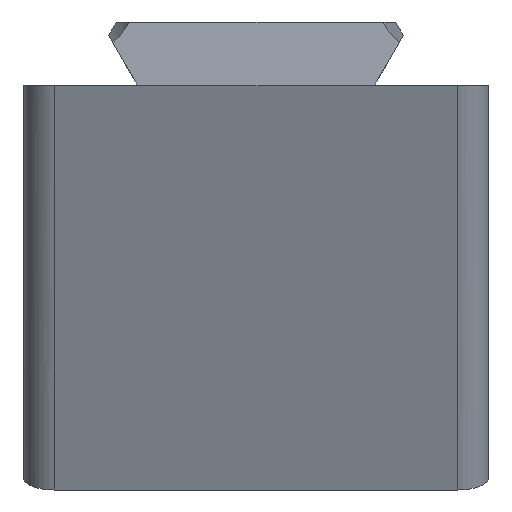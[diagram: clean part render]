
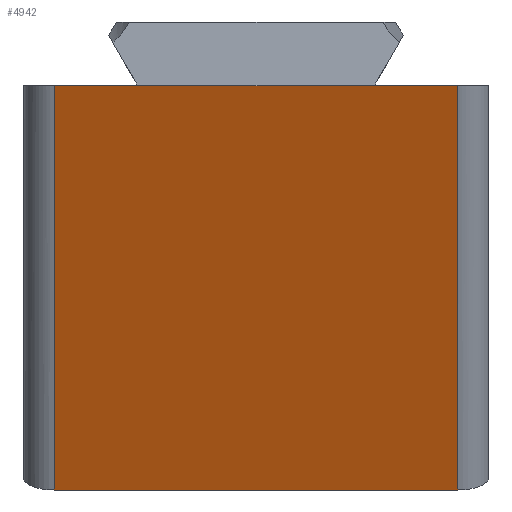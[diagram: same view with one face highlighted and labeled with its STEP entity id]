
A CAD part, left-side view. The second image highlights one B-rep face of the part: STEP entity #4942.
In plain terms, the highlighted planar face has unit normal (-0.92, 0, -0.391).
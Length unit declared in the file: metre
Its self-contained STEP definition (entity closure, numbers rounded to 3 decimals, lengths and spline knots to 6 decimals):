
#764=ORIENTED_EDGE('',*,*,#2034,.T.);
#765=ORIENTED_EDGE('',*,*,#2248,.T.);
#766=ORIENTED_EDGE('',*,*,#1966,.F.);
#767=ORIENTED_EDGE('',*,*,#2249,.T.);
#768=ORIENTED_EDGE('',*,*,#2048,.T.);
#769=ORIENTED_EDGE('',*,*,#2244,.T.);
#1966=EDGE_CURVE('',#2724,#2725,#3229,.T.);
#2034=EDGE_CURVE('',#2783,#2790,#3272,.T.);
#2048=EDGE_CURVE('',#2801,#2775,#3279,.T.);
#2244=EDGE_CURVE('',#2775,#2783,#3359,.T.);
#2248=EDGE_CURVE('',#2790,#2725,#3360,.T.);
#2249=EDGE_CURVE('',#2724,#2801,#3361,.F.);
#2724=VERTEX_POINT('',#6676);
#2725=VERTEX_POINT('',#6678);
#2775=VERTEX_POINT('',#6785);
#2783=VERTEX_POINT('',#6803);
#2790=VERTEX_POINT('',#6820);
#2801=VERTEX_POINT('',#6846);
#3229=LINE('',#6677,#3697);
#3272=LINE('',#6821,#3740);
#3279=LINE('',#6845,#3747);
#3359=LINE('',#7383,#3827);
#3360=LINE('',#7393,#3828);
#3361=LINE('',#7394,#3829);
#3697=VECTOR('',#5553,1.);
#3740=VECTOR('',#5666,1.);
#3747=VECTOR('',#5687,1.);
#3827=VECTOR('',#5861,1.);
#3828=VECTOR('',#5876,1.);
#3829=VECTOR('',#5877,1.);
#4204=EDGE_LOOP('',(#764,#765,#766,#767,#768,#769));
#4516=FACE_BOUND('',#4204,.T.);
#4801=PLANE('',#5310);
#4942=ADVANCED_FACE('',(#4516),#4801,.F.);
#5310=AXIS2_PLACEMENT_3D('',#7392,#5874,#5875);
#5553=DIRECTION('',(0.,1.,0.));
#5666=DIRECTION('',(0.,1.,0.));
#5687=DIRECTION('',(0.,1.,0.));
#5861=DIRECTION('',(0.,1.,0.));
#5874=DIRECTION('',(0.921,0.,0.391));
#5875=DIRECTION('',(0.391,0.,-0.921));
#5876=DIRECTION('',(0.391,0.,-0.921));
#5877=DIRECTION('',(0.391,0.,-0.921));
#6676=CARTESIAN_POINT('',(0.011076,-0.013,-0.026093));
#6677=CARTESIAN_POINT('',(0.011076,-0.015,-0.026093));
#6678=CARTESIAN_POINT('',(0.011076,0.013,-0.026093));
#6785=CARTESIAN_POINT('',(0.,-0.007695,0.));
#6803=CARTESIAN_POINT('',(0.,0.007695,0.));
#6820=CARTESIAN_POINT('',(0.,0.013,0.));
#6821=CARTESIAN_POINT('',(0.,-0.015,0.));
#6845=CARTESIAN_POINT('',(0.,-0.015,0.));
#6846=CARTESIAN_POINT('',(0.,-0.013,0.));
#7383=CARTESIAN_POINT('',(0.,0.,0.));
#7392=CARTESIAN_POINT('',(0.005538,-0.015,-0.013046));
#7393=CARTESIAN_POINT('',(0.005538,0.013,-0.013046));
#7394=CARTESIAN_POINT('',(0.,-0.013,0.));
